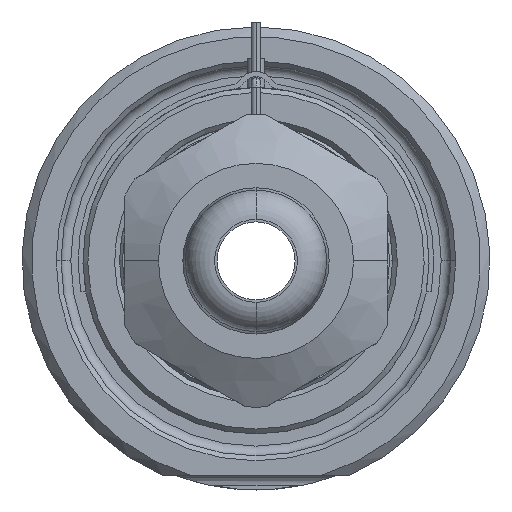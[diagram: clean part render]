
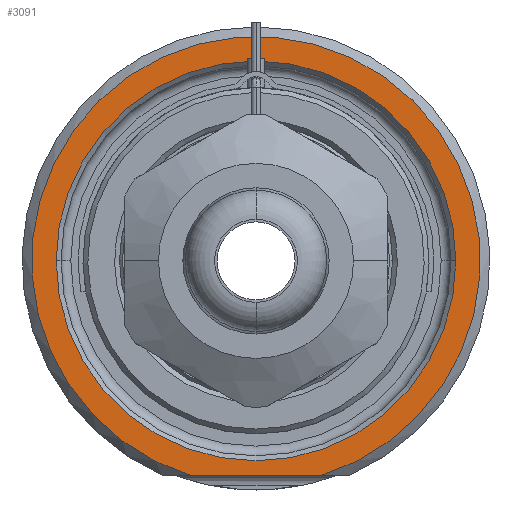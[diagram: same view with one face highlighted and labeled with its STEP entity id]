
A CAD part, front view. The second image highlights one B-rep face of the part: STEP entity #3091.
In plain terms, the highlighted planar face has unit normal (0, -1, 0).
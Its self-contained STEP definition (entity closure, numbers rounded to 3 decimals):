
#1=DIRECTION('',(1.,0.,0.));
#2=VECTOR('',#1,13.416);
#3=CARTESIAN_POINT('',(-6.708,0.,-22.));
#4=LINE('',#3,#2);
#5=CARTESIAN_POINT('',(0.,0.,0.));
#6=DIRECTION('',(0.,1.,0.));
#7=DIRECTION('',(-1.,0.,0.));
#8=AXIS2_PLACEMENT_3D('',#5,#6,#7);
#10=CARTESIAN_POINT('',(0.,0.,0.));
#11=DIRECTION('',(0.,1.,0.));
#12=DIRECTION('',(1.,0.,0.));
#13=AXIS2_PLACEMENT_3D('',#10,#11,#12);
#121=CARTESIAN_POINT('',(0.,0.,0.));
#122=DIRECTION('',(0.,-1.,0.));
#123=DIRECTION('',(0.292,0.,-0.957));
#124=AXIS2_PLACEMENT_3D('',#121,#122,#123);
#2562=CARTESIAN_POINT('',(-20.5,0.,0.));
#2563=CARTESIAN_POINT('',(20.5,0.,0.));
#2564=VERTEX_POINT('',#2562);
#2565=VERTEX_POINT('',#2563);
#2602=CARTESIAN_POINT('',(-6.708,0.,-22.));
#2603=CARTESIAN_POINT('',(6.708,0.,-22.));
#2604=VERTEX_POINT('',#2602);
#2605=VERTEX_POINT('',#2603);
#3074=CARTESIAN_POINT('',(0.,0.,0.));
#3075=DIRECTION('',(0.,-1.,0.));
#3076=DIRECTION('',(1.,0.,0.));
#3077=AXIS2_PLACEMENT_3D('',#3074,#3075,#3076);
#3078=PLANE('',#3077);
#3080=ORIENTED_EDGE('',*,*,#3079,.F.);
#3082=ORIENTED_EDGE('',*,*,#3081,.F.);
#3083=EDGE_LOOP('',(#3080,#3082));
#3084=FACE_OUTER_BOUND('',#3083,.F.);
#3086=ORIENTED_EDGE('',*,*,#3085,.F.);
#3088=ORIENTED_EDGE('',*,*,#3087,.F.);
#3089=EDGE_LOOP('',(#3086,#3088));
#3090=FACE_BOUND('',#3089,.F.);
#3091=ADVANCED_FACE('',(#3084,#3090),#3078,.T.);
#9=CIRCLE('',#8,20.5);
#14=CIRCLE('',#13,20.5);
#125=CIRCLE('',#124,23.);
#3079=EDGE_CURVE('',#2604,#2605,#4,.T.);
#3081=EDGE_CURVE('',#2605,#2604,#125,.T.);
#3085=EDGE_CURVE('',#2564,#2565,#9,.T.);
#3087=EDGE_CURVE('',#2565,#2564,#14,.T.);
